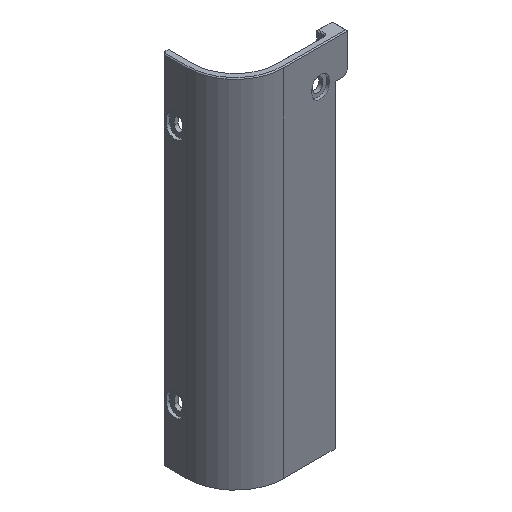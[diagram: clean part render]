
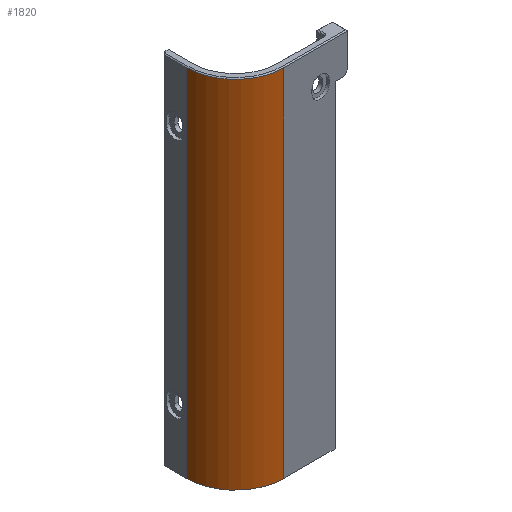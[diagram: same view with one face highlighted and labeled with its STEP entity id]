
A CAD part, isometric view. The second image highlights one B-rep face of the part: STEP entity #1820.
In plain terms, the highlighted cylindrical face has radius 25 mm (diameter 50 mm), a partial arc.
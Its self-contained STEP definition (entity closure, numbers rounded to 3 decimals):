
#354 = DIRECTION ( 'NONE',  ( 0., 0., -1. ) ) ;
#614 = CARTESIAN_POINT ( 'NONE',  ( 0., 0., 0.5 ) ) ;
#705 = DIRECTION ( 'NONE',  ( -1., 0., 0. ) ) ;
#718 = AXIS2_PLACEMENT_3D ( 'NONE', #614, #354, #705 ) ;
#826 = EDGE_CURVE ( 'NONE', #2261, #3084, #3661, .T. ) ;
#1065 = CARTESIAN_POINT ( 'NONE',  ( 0., -25., 0.5 ) ) ;
#1084 = CARTESIAN_POINT ( 'NONE',  ( 0., 0., -183.75 ) ) ;
#1098 = DIRECTION ( 'NONE',  ( 0., 0., 1. ) ) ;
#1176 = ORIENTED_EDGE ( 'NONE', *, *, #4437, .T. ) ;
#1282 = VERTEX_POINT ( 'NONE', #1065 ) ;
#1301 = DIRECTION ( 'NONE',  ( 0., 0., 1. ) ) ;
#1461 = DIRECTION ( 'NONE',  ( -1., 0., 0. ) ) ;
#1477 = DIRECTION ( 'NONE',  ( 0., 0., -1. ) ) ;
#1572 = LINE ( 'NONE', #1916, #3605 ) ;
#1584 = ORIENTED_EDGE ( 'NONE', *, *, #826, .F. ) ;
#1820 = ADVANCED_FACE ( 'NONE', ( #3647 ), #3497, .T. ) ;
#1858 = LINE ( 'NONE', #2689, #3034 ) ;
#1914 = CARTESIAN_POINT ( 'NONE',  ( 0., 0., -368.5 ) ) ;
#1916 = CARTESIAN_POINT ( 'NONE',  ( -25., 0., -368.5 ) ) ;
#1928 = DIRECTION ( 'NONE',  ( 0., 0., 1. ) ) ;
#2136 = AXIS2_PLACEMENT_3D ( 'NONE', #1914, #1928, #4323 ) ;
#2261 = VERTEX_POINT ( 'NONE', #2857 ) ;
#2271 = EDGE_CURVE ( 'NONE', #3084, #4041, #1572, .T. ) ;
#2272 = CIRCLE ( 'NONE', #718, 25. ) ;
#2498 = EDGE_CURVE ( 'NONE', #1282, #4041, #2272, .T. ) ;
#2689 = CARTESIAN_POINT ( 'NONE',  ( 0., -25., -368.5 ) ) ;
#2724 = ORIENTED_EDGE ( 'NONE', *, *, #2498, .T. ) ;
#2857 = CARTESIAN_POINT ( 'NONE',  ( 0., -25., -183.75 ) ) ;
#3034 = VECTOR ( 'NONE', #1301, 1000. ) ;
#3062 = EDGE_LOOP ( 'NONE', ( #1176, #2724, #4143, #1584 ) ) ;
#3084 = VERTEX_POINT ( 'NONE', #3427 ) ;
#3314 = AXIS2_PLACEMENT_3D ( 'NONE', #1084, #1477, #1461 ) ;
#3427 = CARTESIAN_POINT ( 'NONE',  ( -25., 0., -183.75 ) ) ;
#3497 = CYLINDRICAL_SURFACE ( 'NONE', #2136, 25. ) ;
#3605 = VECTOR ( 'NONE', #1098, 1000. ) ;
#3647 = FACE_OUTER_BOUND ( 'NONE', #3062, .T. ) ;
#3661 = CIRCLE ( 'NONE', #3314, 25. ) ;
#4041 = VERTEX_POINT ( 'NONE', #4134 ) ;
#4134 = CARTESIAN_POINT ( 'NONE',  ( -25., 0., 0.5 ) ) ;
#4143 = ORIENTED_EDGE ( 'NONE', *, *, #2271, .F. ) ;
#4323 = DIRECTION ( 'NONE',  ( -1., 0., 0. ) ) ;
#4437 = EDGE_CURVE ( 'NONE', #2261, #1282, #1858, .T. ) ;
